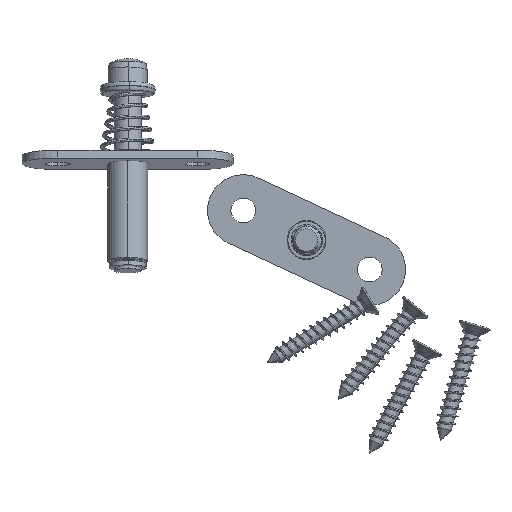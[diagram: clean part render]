
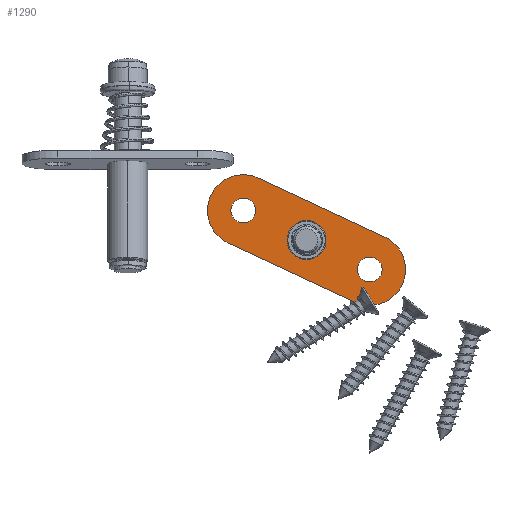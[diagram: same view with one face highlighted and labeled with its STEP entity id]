
A CAD part, front view. The second image highlights one B-rep face of the part: STEP entity #1290.
In plain terms, the highlighted planar face has unit normal (0, -1, 0).
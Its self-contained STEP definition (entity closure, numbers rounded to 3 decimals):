
#223 = VECTOR ( 'NONE', #11908, 1000. ) ;
#546 = DIRECTION ( 'NONE',  ( 0., 0., -1. ) ) ;
#852 = CARTESIAN_POINT ( 'NONE',  ( -17.5, 0., 9. ) ) ;
#1082 = ORIENTED_EDGE ( 'NONE', *, *, #13749, .F. ) ;
#1290 = ADVANCED_FACE ( 'NONE', ( #11976, #18860, #3964, #10427 ), #21075, .T. ) ;
#1624 = ORIENTED_EDGE ( 'NONE', *, *, #18476, .F. ) ;
#1872 = ORIENTED_EDGE ( 'NONE', *, *, #12733, .F. ) ;
#1887 = CARTESIAN_POINT ( 'NONE',  ( 0., 0., 0. ) ) ;
#2334 = CARTESIAN_POINT ( 'NONE',  ( -17.5, 0., 0. ) ) ;
#2687 = CIRCLE ( 'NONE', #6214, 9. ) ;
#2689 = VERTEX_POINT ( 'NONE', #19373 ) ;
#3391 = EDGE_LOOP ( 'NONE', ( #1624, #12067 ) ) ;
#3798 = DIRECTION ( 'NONE',  ( 0., -1., 0. ) ) ;
#3855 = DIRECTION ( 'NONE',  ( 0., -1., 0. ) ) ;
#3961 = EDGE_LOOP ( 'NONE', ( #1082, #8947 ) ) ;
#3964 = FACE_BOUND ( 'NONE', #3391, .T. ) ;
#4042 = CARTESIAN_POINT ( 'NONE',  ( -17.5, 0., -3.125 ) ) ;
#4897 = AXIS2_PLACEMENT_3D ( 'NONE', #2334, #23330, #8803 ) ;
#5021 = VERTEX_POINT ( 'NONE', #4042 ) ;
#5480 = EDGE_CURVE ( 'NONE', #10704, #20814, #13138, .T. ) ;
#5500 = AXIS2_PLACEMENT_3D ( 'NONE', #1887, #5900, #10705 ) ;
#5531 = DIRECTION ( 'NONE',  ( 0., 0., -1. ) ) ;
#5608 = ORIENTED_EDGE ( 'NONE', *, *, #5480, .F. ) ;
#5900 = DIRECTION ( 'NONE',  ( 0., -1., 0. ) ) ;
#6012 = DIRECTION ( 'NONE',  ( 0., 0., -1. ) ) ;
#6072 = EDGE_CURVE ( 'NONE', #2689, #8605, #14831, .T. ) ;
#6164 = ORIENTED_EDGE ( 'NONE', *, *, #9025, .F. ) ;
#6214 = AXIS2_PLACEMENT_3D ( 'NONE', #24033, #9083, #17511 ) ;
#6454 = AXIS2_PLACEMENT_3D ( 'NONE', #11029, #19464, #546 ) ;
#6459 = AXIS2_PLACEMENT_3D ( 'NONE', #15561, #17348, #25961 ) ;
#6583 = ORIENTED_EDGE ( 'NONE', *, *, #18408, .T. ) ;
#6824 = CARTESIAN_POINT ( 'NONE',  ( -17.5, 0., -9. ) ) ;
#6886 = ORIENTED_EDGE ( 'NONE', *, *, #25799, .T. ) ;
#7765 = CARTESIAN_POINT ( 'NONE',  ( 17.5, 0., -9. ) ) ;
#8030 = LINE ( 'NONE', #16182, #223 ) ;
#8075 = EDGE_LOOP ( 'NONE', ( #5608, #6886, #11463, #6164, #6583, #24726 ) ) ;
#8603 = CARTESIAN_POINT ( 'NONE',  ( 17.5, 0., 9. ) ) ;
#8605 = VERTEX_POINT ( 'NONE', #8603 ) ;
#8803 = DIRECTION ( 'NONE',  ( 0., 0., -1. ) ) ;
#8839 = ORIENTED_EDGE ( 'NONE', *, *, #24846, .F. ) ;
#8848 = AXIS2_PLACEMENT_3D ( 'NONE', #11702, #20264, #18191 ) ;
#8947 = ORIENTED_EDGE ( 'NONE', *, *, #14281, .F. ) ;
#9025 = EDGE_CURVE ( 'NONE', #19428, #8605, #8030, .T. ) ;
#9083 = DIRECTION ( 'NONE',  ( 0., -1., 0. ) ) ;
#9617 = AXIS2_PLACEMENT_3D ( 'NONE', #15333, #23784, #5531 ) ;
#9774 = CARTESIAN_POINT ( 'NONE',  ( 17.5, 0., 0. ) ) ;
#10427 = FACE_OUTER_BOUND ( 'NONE', #8075, .T. ) ;
#10704 = VERTEX_POINT ( 'NONE', #7765 ) ;
#10705 = DIRECTION ( 'NONE',  ( 0., 0., -1. ) ) ;
#10966 = CARTESIAN_POINT ( 'NONE',  ( -17.5, 0., 3.125 ) ) ;
#11029 = CARTESIAN_POINT ( 'NONE',  ( 17.5, 0., 0. ) ) ;
#11065 = DIRECTION ( 'NONE',  ( -1., 0., 0. ) ) ;
#11463 = ORIENTED_EDGE ( 'NONE', *, *, #6072, .T. ) ;
#11702 = CARTESIAN_POINT ( 'NONE',  ( -17.5, 0., 0. ) ) ;
#11908 = DIRECTION ( 'NONE',  ( 1., 0., 0. ) ) ;
#11951 = CIRCLE ( 'NONE', #4897, 3.125 ) ;
#11976 = FACE_BOUND ( 'NONE', #3961, .T. ) ;
#12067 = ORIENTED_EDGE ( 'NONE', *, *, #12892, .F. ) ;
#12332 = AXIS2_PLACEMENT_3D ( 'NONE', #16086, #24959, #6012 ) ;
#12733 = EDGE_CURVE ( 'NONE', #23407, #17368, #13496, .T. ) ;
#12794 = CIRCLE ( 'NONE', #12332, 4.9 ) ;
#12892 = EDGE_CURVE ( 'NONE', #20777, #13518, #21443, .T. ) ;
#13138 = LINE ( 'NONE', #21569, #26675 ) ;
#13496 = CIRCLE ( 'NONE', #17916, 3.125 ) ;
#13518 = VERTEX_POINT ( 'NONE', #26118 ) ;
#13749 = EDGE_CURVE ( 'NONE', #21835, #5021, #11951, .T. ) ;
#13811 = DIRECTION ( 'NONE',  ( 0., 0., -1. ) ) ;
#14000 = EDGE_CURVE ( 'NONE', #16546, #20814, #2687, .T. ) ;
#14281 = EDGE_CURVE ( 'NONE', #5021, #21835, #15921, .T. ) ;
#14831 = CIRCLE ( 'NONE', #6454, 9. ) ;
#15333 = CARTESIAN_POINT ( 'NONE',  ( 17.5, 0., 0. ) ) ;
#15561 = CARTESIAN_POINT ( 'NONE',  ( 0., 0., 0. ) ) ;
#15662 = CARTESIAN_POINT ( 'NONE',  ( 0., 0., -4.9 ) ) ;
#15921 = CIRCLE ( 'NONE', #8848, 3.125 ) ;
#16086 = CARTESIAN_POINT ( 'NONE',  ( 0., 0., 0. ) ) ;
#16182 = CARTESIAN_POINT ( 'NONE',  ( 26.5, 0., 9. ) ) ;
#16546 = VERTEX_POINT ( 'NONE', #16907 ) ;
#16907 = CARTESIAN_POINT ( 'NONE',  ( -26.5, 0., 0. ) ) ;
#17348 = DIRECTION ( 'NONE',  ( 0., -1., 0. ) ) ;
#17368 = VERTEX_POINT ( 'NONE', #19706 ) ;
#17511 = DIRECTION ( 'NONE',  ( 0., 0., -1. ) ) ;
#17648 = AXIS2_PLACEMENT_3D ( 'NONE', #20648, #3798, #26908 ) ;
#17916 = AXIS2_PLACEMENT_3D ( 'NONE', #9774, #22229, #18460 ) ;
#18191 = DIRECTION ( 'NONE',  ( 0., 0., -1. ) ) ;
#18408 = EDGE_CURVE ( 'NONE', #19428, #16546, #19394, .T. ) ;
#18414 = EDGE_LOOP ( 'NONE', ( #1872, #8839 ) ) ;
#18460 = DIRECTION ( 'NONE',  ( 0., 0., -1. ) ) ;
#18476 = EDGE_CURVE ( 'NONE', #13518, #20777, #12794, .T. ) ;
#18860 = FACE_BOUND ( 'NONE', #18414, .T. ) ;
#19373 = CARTESIAN_POINT ( 'NONE',  ( 26.5, 0., 0. ) ) ;
#19394 = CIRCLE ( 'NONE', #17648, 9. ) ;
#19428 = VERTEX_POINT ( 'NONE', #852 ) ;
#19464 = DIRECTION ( 'NONE',  ( 0., -1., 0. ) ) ;
#19706 = CARTESIAN_POINT ( 'NONE',  ( 17.5, 0., -3.125 ) ) ;
#19991 = CARTESIAN_POINT ( 'NONE',  ( 17.5, 0., 3.125 ) ) ;
#20264 = DIRECTION ( 'NONE',  ( 0., -1., 0. ) ) ;
#20648 = CARTESIAN_POINT ( 'NONE',  ( -17.5, 0., 0. ) ) ;
#20777 = VERTEX_POINT ( 'NONE', #15662 ) ;
#20814 = VERTEX_POINT ( 'NONE', #6824 ) ;
#21075 = PLANE ( 'NONE',  #5500 ) ;
#21443 = CIRCLE ( 'NONE', #6459, 4.9 ) ;
#21569 = CARTESIAN_POINT ( 'NONE',  ( 26.5, 0., -9. ) ) ;
#21835 = VERTEX_POINT ( 'NONE', #10966 ) ;
#22106 = CIRCLE ( 'NONE', #25663, 3.125 ) ;
#22229 = DIRECTION ( 'NONE',  ( 0., -1., 0. ) ) ;
#23330 = DIRECTION ( 'NONE',  ( 0., -1., 0. ) ) ;
#23407 = VERTEX_POINT ( 'NONE', #19991 ) ;
#23784 = DIRECTION ( 'NONE',  ( 0., -1., 0. ) ) ;
#24033 = CARTESIAN_POINT ( 'NONE',  ( -17.5, 0., 0. ) ) ;
#24348 = CARTESIAN_POINT ( 'NONE',  ( 17.5, 0., 0. ) ) ;
#24726 = ORIENTED_EDGE ( 'NONE', *, *, #14000, .T. ) ;
#24846 = EDGE_CURVE ( 'NONE', #17368, #23407, #22106, .T. ) ;
#24959 = DIRECTION ( 'NONE',  ( 0., -1., 0. ) ) ;
#25088 = CIRCLE ( 'NONE', #9617, 9. ) ;
#25663 = AXIS2_PLACEMENT_3D ( 'NONE', #24348, #3855, #13811 ) ;
#25799 = EDGE_CURVE ( 'NONE', #10704, #2689, #25088, .T. ) ;
#25961 = DIRECTION ( 'NONE',  ( 0., 0., -1. ) ) ;
#26118 = CARTESIAN_POINT ( 'NONE',  ( 0., 0., 4.9 ) ) ;
#26675 = VECTOR ( 'NONE', #11065, 1000. ) ;
#26908 = DIRECTION ( 'NONE',  ( 0., 0., -1. ) ) ;
